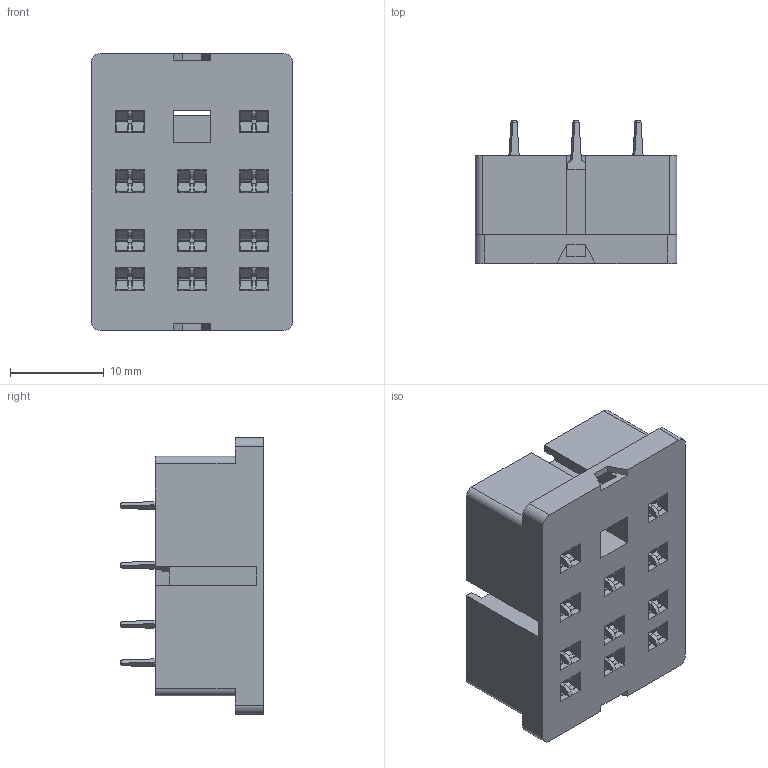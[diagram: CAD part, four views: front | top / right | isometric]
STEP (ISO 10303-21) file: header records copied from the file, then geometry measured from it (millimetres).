
FILE_DESCRIPTION(/* description */ (''),/* implementation_level */ '2;1');
FILE_NAME(/* name */ 'C:\Desktop\94.13.3.stp',/* time_stamp */ '2016-03-02T11:58:58+01:00',/* author */ ('marco'),/* organization */ (''),/* preprocessor_version */ 'ST-DEVELOPER v16.1',/* originating_system */ 'Autodesk Inventor 2016',/* authorisation */ '');
FILE_SCHEMA (('AUTOMOTIVE_DESIGN { 1 0 10303 214 3 1 1 }'));
Length unit declared in the file: centimetre
Products named in the file (1): 94.13
Bounding box: 21.5 x 15.2 x 29.5 mm (x, y, z)
Volume: 5189.3 mm3; surface area: 5462.3 mm2
Topology: 1 solids, 1 shells, 1128 faces, 3540 edges, 2300 vertices
Faces by surface type: plane 911, cylinder 217
Entity records: 39305 total; most frequent: ORIENTED_EDGE 7080, CARTESIAN_POINT 6969, DIRECTION 6232, EDGE_CURVE 3540, LINE 3106, VECTOR 3106, VERTEX_POINT 2300, AXIS2_PLACEMENT_3D 1563
